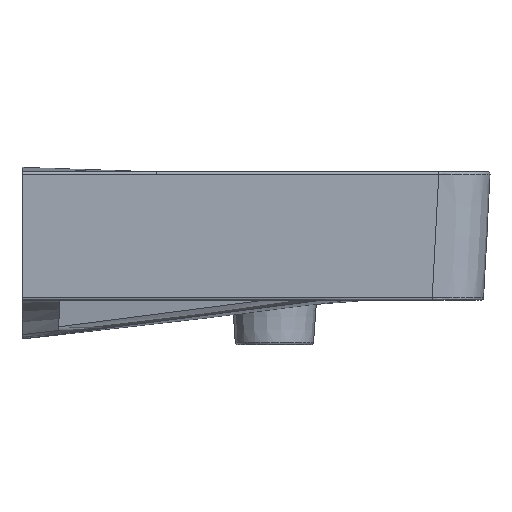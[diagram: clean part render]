
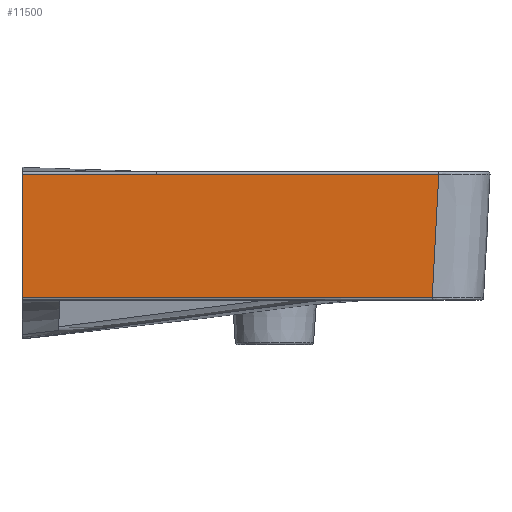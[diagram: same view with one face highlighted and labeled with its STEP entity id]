
A CAD part, front view. The second image highlights one B-rep face of the part: STEP entity #11500.
In plain terms, the highlighted planar face has unit normal (0, -1, -0.023).
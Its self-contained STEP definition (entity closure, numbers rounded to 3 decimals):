
#8344=CARTESIAN_POINT('Vertex',(141.589,-472.435,-3.045)) ;
#9615=CARTESIAN_POINT('Line Origine',(-42.455,-472.435,-3.045)) ;
#9619=CARTESIAN_POINT('Vertex',(-226.5,-472.435,-3.045)) ;
#11327=CARTESIAN_POINT('Vertex',(147.46,-474.954,107.955)) ;
#11331=CARTESIAN_POINT('Control Point',(147.46,-474.954,107.955)) ;
#11332=CARTESIAN_POINT('Control Point',(146.89,-474.453,85.899)) ;
#11333=CARTESIAN_POINT('Control Point',(146.025,-473.953,63.856)) ;
#11334=CARTESIAN_POINT('Control Point',(144.865,-473.453,41.827)) ;
#11335=CARTESIAN_POINT('Control Point',(143.398,-472.949,19.641)) ;
#11336=CARTESIAN_POINT('Control Point',(141.631,-472.446,-2.525)) ;
#11337=CARTESIAN_POINT('Control Point',(141.617,-472.443,-2.698)) ;
#11338=CARTESIAN_POINT('Control Point',(141.603,-472.439,-2.872)) ;
#11339=CARTESIAN_POINT('Control Point',(141.589,-472.435,-3.045)) ;
#11466=CARTESIAN_POINT('Axis2P3D Location',(-266.791,-475.,110.)) ;
#11471=CARTESIAN_POINT('Line Origine',(20.73,-474.954,107.955)) ;
#11475=CARTESIAN_POINT('Vertex',(-106.001,-474.954,107.955)) ;
#11479=CARTESIAN_POINT('Control Point',(-226.5,-474.954,107.988)) ;
#11480=CARTESIAN_POINT('Control Point',(-202.4,-474.954,107.982)) ;
#11481=CARTESIAN_POINT('Control Point',(-178.3,-474.954,107.975)) ;
#11482=CARTESIAN_POINT('Control Point',(-154.2,-474.954,107.968)) ;
#11483=CARTESIAN_POINT('Control Point',(-130.1,-474.954,107.961)) ;
#11484=CARTESIAN_POINT('Control Point',(-106.001,-474.954,107.955)) ;
#11485=CARTESIAN_POINT('Vertex',(-226.5,-474.954,107.988)) ;
#11488=CARTESIAN_POINT('Line Origine',(-226.5,-473.694,52.472)) ;
#9616=DIRECTION('Vector Direction',(1.,0.,0.)) ;
#11467=DIRECTION('Axis2P3D Direction',(-0.,1.,0.023)) ;
#11468=DIRECTION('Axis2P3D XDirection',(1.,0.,0.)) ;
#11472=DIRECTION('Vector Direction',(1.,0.,0.)) ;
#11489=DIRECTION('Vector Direction',(0.,-0.023,1.)) ;
#11469=AXIS2_PLACEMENT_3D('Plane Axis2P3D',#11466,#11467,#11468) ;
#11494=ORIENTED_EDGE('',*,*,#11477,.F.) ;
#11495=ORIENTED_EDGE('',*,*,#11487,.F.) ;
#11496=ORIENTED_EDGE('',*,*,#11492,.F.) ;
#11497=ORIENTED_EDGE('',*,*,#9621,.F.) ;
#11498=ORIENTED_EDGE('',*,*,#11340,.F.) ;
#9617=VECTOR('Line Direction',#9616,1.) ;
#11473=VECTOR('Line Direction',#11472,1.) ;
#11490=VECTOR('Line Direction',#11489,1.) ;
#11500=ADVANCED_FACE('Hauptk\X2\00F6\X0\rper',(#11499),#11470,.F.) ;
#11478=B_SPLINE_CURVE_WITH_KNOTS('',5,(#11479,#11480,#11481,#11482,#11483,#11484),.UNSPECIFIED.,.F.,.U.,(6,6),(105.803,276.242),.UNSPECIFIED.) ;
#9621=EDGE_CURVE('',#8345,#9620,#9618,.F.) ;
#11340=EDGE_CURVE('',#11328,#8345,#11330,.T.) ;
#11477=EDGE_CURVE('',#11476,#11328,#11474,.T.) ;
#11487=EDGE_CURVE('',#11486,#11476,#11478,.T.) ;
#11492=EDGE_CURVE('',#9620,#11486,#11491,.T.) ;
#11493=EDGE_LOOP('',(#11494,#11495,#11496,#11497,#11498)) ;
#11499=FACE_OUTER_BOUND('',#11493,.T.) ;
#9618=LINE('Line',#9615,#9617) ;
#11474=LINE('Line',#11471,#11473) ;
#11491=LINE('Line',#11488,#11490) ;
#11470=PLANE('Plane',#11469) ;
#8345=VERTEX_POINT('',#8344) ;
#9620=VERTEX_POINT('',#9619) ;
#11328=VERTEX_POINT('',#11327) ;
#11476=VERTEX_POINT('',#11475) ;
#11486=VERTEX_POINT('',#11485) ;
#11330=(BOUNDED_CURVE()B_SPLINE_CURVE(5,(#11331,#11332,#11333,#11334,#11335,#11336,#11337,#11338,#11339),.UNSPECIFIED.,.F.,.U.)B_SPLINE_CURVE_WITH_KNOTS((6,3,6),(35.489,193.266,194.511),.UNSPECIFIED.)CURVE()GEOMETRIC_REPRESENTATION_ITEM()RATIONAL_B_SPLINE_CURVE((1.,1.,1.,1.,1.,1.,1.,1.,1.))REPRESENTATION_ITEM('')) ;
